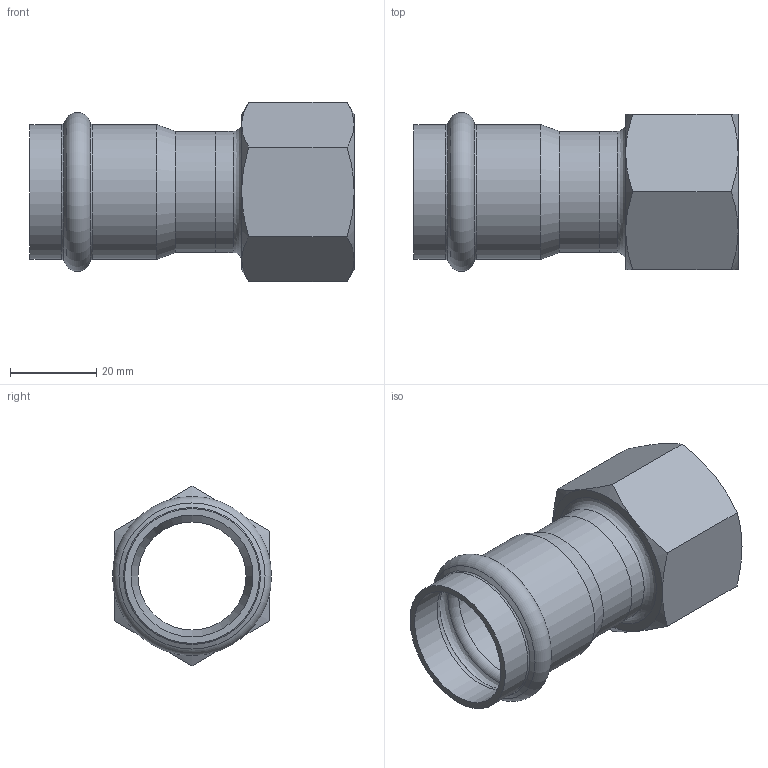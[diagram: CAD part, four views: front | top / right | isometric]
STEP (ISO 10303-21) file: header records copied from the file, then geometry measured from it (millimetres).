
FILE_DESCRIPTION((''),'2;1');
FILE_NAME('C:\STEP-Dateien NiroSan\28\69270G281(1).stp','2013-06-04T15:18:09',('Lohse'),(''),'Autodesk Inventor 2009','Autodesk Inventor 2009','');
FILE_SCHEMA(('AUTOMOTIVE_DESIGN { 1 0 10303 214 1 1 1 1 }'));
Length unit declared in the file: millimetre
Products named in the file (3): 69270G281(1); 6924328HM(1); IG281(1)
Assembly tree (2 placements, depth 2):
  69270G281(1)
    6924328HM(1)
    IG281(1)
Bounding box: 75 x 36.78 x 41.57 mm (x, y, z)
Volume: 18426.7 mm3; surface area: 16451.8 mm2
Topology: 2 solids, 2 shells, 45 faces, 90 edges, 51 vertices
Faces by surface type: cone 17, plane 11, bspline 7, cylinder 7, torus 3
Full cylindrical faces by diameter (mm): 25 x1, 28 x2, 28.2 x2, 31.2 x2
Entity records: 1320 total; most frequent: CARTESIAN_POINT 465, DIRECTION 168, ORIENTED_EDGE 136, AXIS2_PLACEMENT_3D 81, EDGE_LOOP 72, EDGE_CURVE 68, VERTEX_POINT 50, FACE_OUTER_BOUND 45
